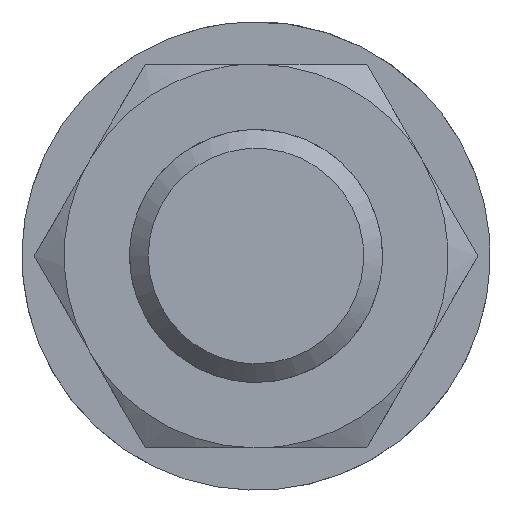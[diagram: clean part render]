
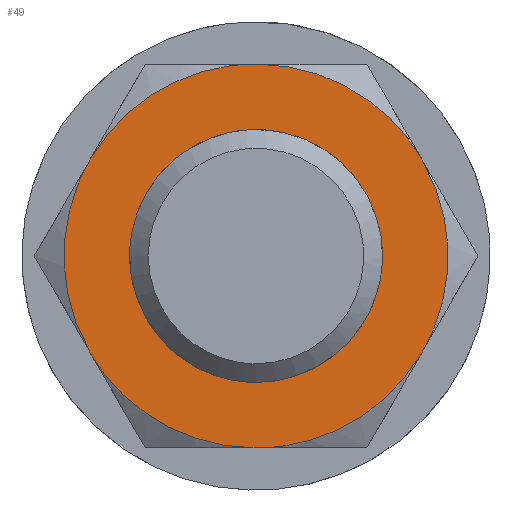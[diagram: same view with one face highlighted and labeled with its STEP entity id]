
A CAD part, left-side view. The second image highlights one B-rep face of the part: STEP entity #49.
In plain terms, the highlighted planar face has unit normal (-1, 0, 0).
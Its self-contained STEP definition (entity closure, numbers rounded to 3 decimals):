
#40=FACE_BOUND('',#138,.T.);
#49=ADVANCED_FACE('',(#92,#40),#658,.T.);
#92=FACE_OUTER_BOUND('',#137,.T.);
#137=EDGE_LOOP('',(#202,#203,#204,#205,#206,#207));
#138=EDGE_LOOP('',(#208,#209));
#202=ORIENTED_EDGE('',*,*,#403,.F.);
#203=ORIENTED_EDGE('',*,*,#405,.F.);
#204=ORIENTED_EDGE('',*,*,#406,.F.);
#205=ORIENTED_EDGE('',*,*,#404,.F.);
#206=ORIENTED_EDGE('',*,*,#402,.F.);
#207=ORIENTED_EDGE('',*,*,#401,.F.);
#208=ORIENTED_EDGE('',*,*,#391,.F.);
#209=ORIENTED_EDGE('',*,*,#389,.F.);
#389=EDGE_CURVE('',#604,#594,#515,.T.);
#391=EDGE_CURVE('',#594,#604,#516,.T.);
#401=EDGE_CURVE('',#598,#599,#524,.T.);
#402=EDGE_CURVE('',#599,#603,#525,.T.);
#403=EDGE_CURVE('',#600,#598,#526,.T.);
#404=EDGE_CURVE('',#603,#602,#527,.T.);
#405=EDGE_CURVE('',#601,#600,#528,.T.);
#406=EDGE_CURVE('',#602,#601,#529,.T.);
#515=(
BOUNDED_CURVE()
B_SPLINE_CURVE(2,(#1161,#1162,#1163,#1164,#1165),.UNSPECIFIED.,.F.,.F.)
B_SPLINE_CURVE_WITH_KNOTS((3,2,3),(42.411,63.616,84.822),
 .UNSPECIFIED.)
CURVE()
GEOMETRIC_REPRESENTATION_ITEM()
RATIONAL_B_SPLINE_CURVE((1.,0.707,1.,0.707,1.))
REPRESENTATION_ITEM('')
);
#516=(
BOUNDED_CURVE()
B_SPLINE_CURVE(2,(#1168,#1169,#1170,#1171,#1172),.UNSPECIFIED.,.F.,.F.)
B_SPLINE_CURVE_WITH_KNOTS((3,2,3),(0.,21.205,42.411),
 .UNSPECIFIED.)
CURVE()
GEOMETRIC_REPRESENTATION_ITEM()
RATIONAL_B_SPLINE_CURVE((1.,0.707,1.,0.707,1.))
REPRESENTATION_ITEM('')
);
#524=(
BOUNDED_CURVE()
B_SPLINE_CURVE(2,(#1210,#1211,#1212),.UNSPECIFIED.,.F.,.F.)
B_SPLINE_CURVE_WITH_KNOTS((3,3),(0.,21.468),.UNSPECIFIED.)
CURVE()
GEOMETRIC_REPRESENTATION_ITEM()
RATIONAL_B_SPLINE_CURVE((1.,0.866,1.))
REPRESENTATION_ITEM('')
);
#525=(
BOUNDED_CURVE()
B_SPLINE_CURVE(2,(#1213,#1214,#1215),.UNSPECIFIED.,.F.,.F.)
B_SPLINE_CURVE_WITH_KNOTS((3,3),(0.,21.468),.UNSPECIFIED.)
CURVE()
GEOMETRIC_REPRESENTATION_ITEM()
RATIONAL_B_SPLINE_CURVE((1.,0.866,1.))
REPRESENTATION_ITEM('')
);
#526=(
BOUNDED_CURVE()
B_SPLINE_CURVE(2,(#1216,#1217,#1218),.UNSPECIFIED.,.F.,.F.)
B_SPLINE_CURVE_WITH_KNOTS((3,3),(0.,21.468),.UNSPECIFIED.)
CURVE()
GEOMETRIC_REPRESENTATION_ITEM()
RATIONAL_B_SPLINE_CURVE((1.,0.866,1.))
REPRESENTATION_ITEM('')
);
#527=(
BOUNDED_CURVE()
B_SPLINE_CURVE(2,(#1219,#1220,#1221),.UNSPECIFIED.,.F.,.F.)
B_SPLINE_CURVE_WITH_KNOTS((3,3),(0.,21.468),.UNSPECIFIED.)
CURVE()
GEOMETRIC_REPRESENTATION_ITEM()
RATIONAL_B_SPLINE_CURVE((1.,0.866,1.))
REPRESENTATION_ITEM('')
);
#528=(
BOUNDED_CURVE()
B_SPLINE_CURVE(2,(#1222,#1223,#1224),.UNSPECIFIED.,.F.,.F.)
B_SPLINE_CURVE_WITH_KNOTS((3,3),(0.,21.468),.UNSPECIFIED.)
CURVE()
GEOMETRIC_REPRESENTATION_ITEM()
RATIONAL_B_SPLINE_CURVE((1.,0.866,1.))
REPRESENTATION_ITEM('')
);
#529=(
BOUNDED_CURVE()
B_SPLINE_CURVE(2,(#1225,#1226,#1227),.UNSPECIFIED.,.F.,.F.)
B_SPLINE_CURVE_WITH_KNOTS((3,3),(0.,21.468),.UNSPECIFIED.)
CURVE()
GEOMETRIC_REPRESENTATION_ITEM()
RATIONAL_B_SPLINE_CURVE((1.,0.866,1.))
REPRESENTATION_ITEM('')
);
#594=VERTEX_POINT('',#1129);
#598=VERTEX_POINT('',#1133);
#599=VERTEX_POINT('',#1134);
#600=VERTEX_POINT('',#1135);
#601=VERTEX_POINT('',#1136);
#602=VERTEX_POINT('',#1137);
#603=VERTEX_POINT('',#1138);
#604=VERTEX_POINT('',#1139);
#658=PLANE('',#772);
#772=AXIS2_PLACEMENT_3D('',#886,#798,$);
#798=DIRECTION('',(-1.,0.,0.));
#886=CARTESIAN_POINT('',(35.,-28.526,24.72));
#1129=CARTESIAN_POINT('',(35.,0.,-13.5));
#1133=CARTESIAN_POINT('',(35.,-17.754,10.25));
#1134=CARTESIAN_POINT('',(35.,-17.754,-10.25));
#1135=CARTESIAN_POINT('',(35.,0.,20.5));
#1136=CARTESIAN_POINT('',(35.,17.754,10.25));
#1137=CARTESIAN_POINT('',(35.,17.754,-10.25));
#1138=CARTESIAN_POINT('',(35.,0.,-20.5));
#1139=CARTESIAN_POINT('',(35.,0.,13.5));
#1161=CARTESIAN_POINT('',(35.,0.,13.5));
#1162=CARTESIAN_POINT('',(35.,13.5,13.5));
#1163=CARTESIAN_POINT('',(35.,13.5,0.));
#1164=CARTESIAN_POINT('',(35.,13.5,-13.5));
#1165=CARTESIAN_POINT('',(35.,0.,-13.5));
#1168=CARTESIAN_POINT('',(35.,0.,-13.5));
#1169=CARTESIAN_POINT('',(35.,-13.5,-13.5));
#1170=CARTESIAN_POINT('',(35.,-13.5,0.));
#1171=CARTESIAN_POINT('',(35.,-13.5,13.5));
#1172=CARTESIAN_POINT('',(35.,0.,13.5));
#1210=CARTESIAN_POINT('',(35.,-17.754,10.25));
#1211=CARTESIAN_POINT('',(35.,-23.671,0.));
#1212=CARTESIAN_POINT('',(35.,-17.754,-10.25));
#1213=CARTESIAN_POINT('',(35.,-17.754,-10.25));
#1214=CARTESIAN_POINT('',(35.,-11.836,-20.5));
#1215=CARTESIAN_POINT('',(35.,0.,-20.5));
#1216=CARTESIAN_POINT('',(35.,0.,20.5));
#1217=CARTESIAN_POINT('',(35.,-11.836,20.5));
#1218=CARTESIAN_POINT('',(35.,-17.754,10.25));
#1219=CARTESIAN_POINT('',(35.,0.,-20.5));
#1220=CARTESIAN_POINT('',(35.,11.836,-20.5));
#1221=CARTESIAN_POINT('',(35.,17.754,-10.25));
#1222=CARTESIAN_POINT('',(35.,17.754,10.25));
#1223=CARTESIAN_POINT('',(35.,11.836,20.5));
#1224=CARTESIAN_POINT('',(35.,0.,20.5));
#1225=CARTESIAN_POINT('',(35.,17.754,-10.25));
#1226=CARTESIAN_POINT('',(35.,23.671,0.));
#1227=CARTESIAN_POINT('',(35.,17.754,10.25));
